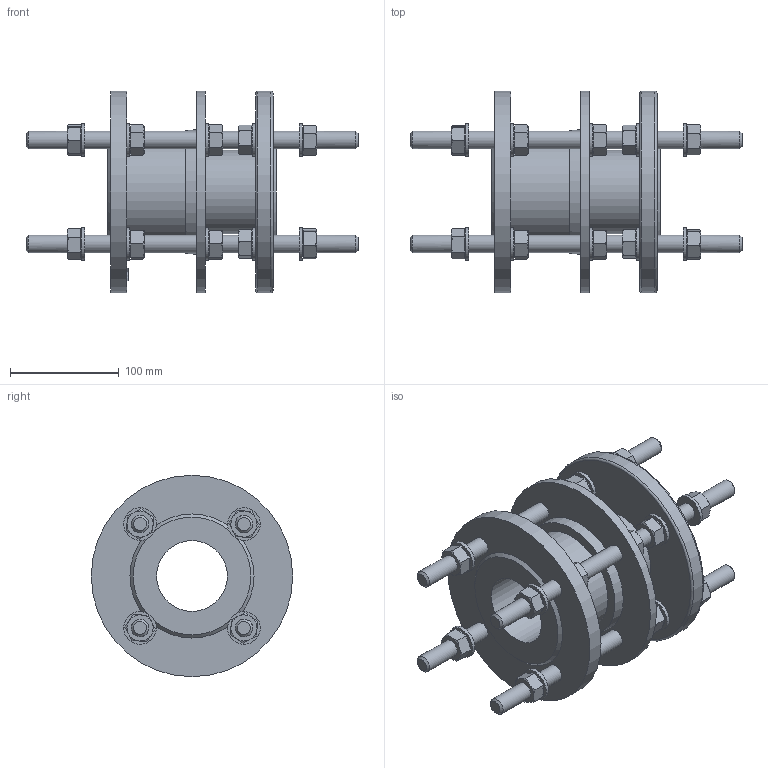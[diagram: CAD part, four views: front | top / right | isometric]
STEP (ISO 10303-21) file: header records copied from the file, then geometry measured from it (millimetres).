
FILE_DESCRIPTION (( 'STEP AP203' ), '1' );
FILE_NAME ('O_265_910_DN60_1XXXXX00_L=155_REV01.step', '2024-10-11T08:01:12', ( '' ), ( '' ), 'SwSTEP 2.0', 'SolidWorks 2022', '' );
FILE_SCHEMA (( 'CONFIG_CONTROL_DESIGN' ));
Length unit declared in the file: millimetre
Products named in the file (1): O_265_910_DN60_1XXXXX00_L=155_REV01
Bounding box: 305 x 185 x 185 mm (x, y, z)
Volume: 1599339 mm3; surface area: 286342.3 mm2
Topology: 1 solids, 1 shells, 549 faces, 1205 edges, 725 vertices
Faces by surface type: plane 344, cone 131, cylinder 72, torus 2
Full cylindrical faces by diameter (mm): 16 x24, 24 x20, 30 x20, 65 x1, 77 x1, 95 x1, 185 x3
Entity records: 15142 total; most frequent: CARTESIAN_POINT 3767, DIRECTION 2327, ORIENTED_EDGE 2174, EDGE_CURVE 1087, AXIS2_PLACEMENT_3D 930, EDGE_LOOP 717, VERTEX_POINT 690, FACE_OUTER_BOUND 621
